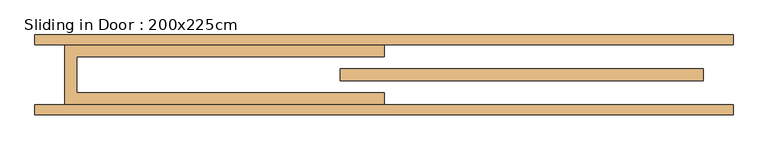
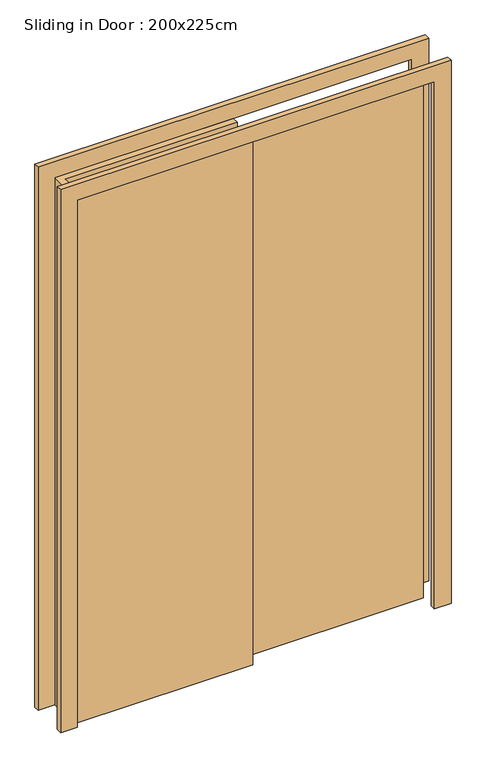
"""IFC4 building model written with IfcOpenShell, lengths in millimetres: door geometry, Sliding in Door : 200x225cm."""

from ifc_helpers import new_model, si_unit, frame, origin, origin_with_axes, place, context, project, spatial, polyline, outline, extrude, source, transform, mapped, element, save


def sliding_in_door_200x225cm_afe6ee02(model_context):
    return source(origin(), model_context, "Body", "SweptSolid", [
        extrude(outline(polyline([(2500.0, -800.0), (2500.0, 800.0), (0.0, 800.0), (0.0, 875.0), (2575.0, 875.0), (2575.0, -875.0), (0.0, -875.0), (0.0, -800.0), (2500.0, -800.0)])), frame((0.0, 75.0, 0.0), z_axis=(0.0, 1.0, 0.0), x_axis=(0.0, 0.0, 1.0)), (0.0, 0.0, 1.0), 25.0),
        extrude(outline(polyline([(2575.0, -875.0), (0.0, -875.0), (0.0, -800.0), (2500.0, -800.0), (2500.0, 800.0), (0.0, 800.0), (0.0, 875.0), (2575.0, 875.0), (2575.0, -875.0)])), frame((0.0, -100.0, 0.0), z_axis=(0.0, 1.0, 0.0), x_axis=(0.0, 0.0, 1.0)), (0.0, 0.0, 1.0), 25.0),
        extrude(outline(polyline([(800.0, 15.0), (800.0, -15.0), (-110.0, -15.0), (-110.0, 15.0), (800.0, 15.0)])), origin_with_axes(), (0.0, 0.0, 1.0), 2500.0),
        extrude(outline(polyline([(0.0, 75.0), (0.0, 45.0), (-770.0, 45.0), (-770.0, -45.0), (0.0, -45.0), (0.0, -75.0), (-800.0, -75.0), (-800.0, 75.0), (0.0, 75.0)])), origin_with_axes(), (0.0, 0.0, 1.0), 2500.0),
    ])


if __name__ == "__main__":
    model = new_model("IFC4")
    model_context = context("Model", 3, world=origin())
    ifc_project = project(units=[si_unit("LENGTHUNIT", "METRE", prefix="MILLI")], contexts=[model_context])
    site = spatial("IfcSite", under=ifc_project)
    building = spatial("IfcBuilding", under=site)
    placement = place(None, origin())
    sliding_in_door_200x225cm_shape = sliding_in_door_200x225cm_afe6ee02(model_context)
    element("IfcDoor", 1, ObjectType="Sliding in Door : 200x225cm", at=placement, inside=building, context=model_context, shape_type="MappedRepresentation", body=[
        mapped(sliding_in_door_200x225cm_shape, transform((0.0, 0.0, 0.0), x_axis=(1.0, 0.0, 0.0), y_axis=(0.0, 1.0, 0.0), z_axis=(0.0, 0.0, 1.0))),
    ])
    save(model, "model.ifc")
